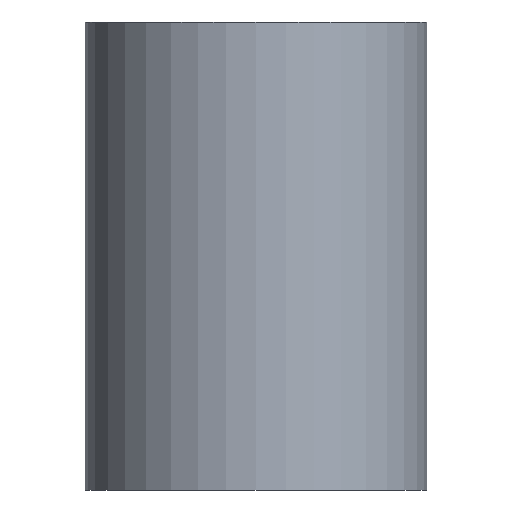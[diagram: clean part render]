
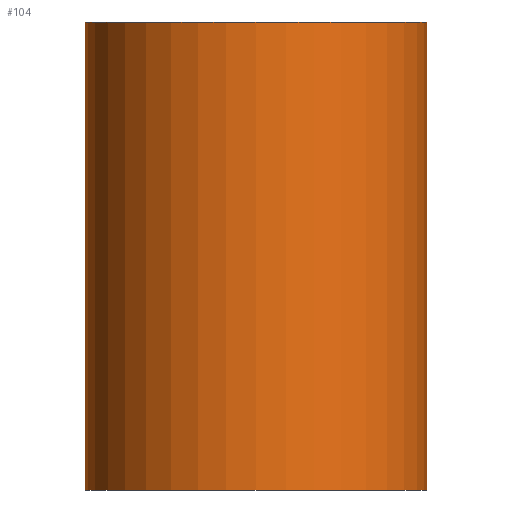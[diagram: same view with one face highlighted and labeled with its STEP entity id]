
A CAD part, front view. The second image highlights one B-rep face of the part: STEP entity #104.
In plain terms, the highlighted cylindrical face has radius 36.5 mm (diameter 73 mm), a partial arc.
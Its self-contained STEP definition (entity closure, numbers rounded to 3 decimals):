
#4 = EDGE_LOOP ( 'NONE', ( #62, #167, #174, #151 ) ) ;
#9 = VECTOR ( 'NONE', #52, 1000. ) ;
#23 = CIRCLE ( 'NONE', #85, 36.5 ) ;
#26 = CIRCLE ( 'NONE', #56, 36.5 ) ;
#31 = VERTEX_POINT ( 'NONE', #35 ) ;
#35 = CARTESIAN_POINT ( 'NONE',  ( 10918.5, -101.5, 2290. ) ) ;
#51 = CYLINDRICAL_SURFACE ( 'NONE', #103, 36.5 ) ;
#52 = DIRECTION ( 'NONE',  ( 0., 0., 1. ) ) ;
#55 = DIRECTION ( 'NONE',  ( 0., 0., -1. ) ) ;
#56 = AXIS2_PLACEMENT_3D ( 'NONE', #127, #55, #93 ) ;
#62 = ORIENTED_EDGE ( 'NONE', *, *, #95, .F. ) ;
#63 = DIRECTION ( 'NONE',  ( 0., 0., 1. ) ) ;
#84 = LINE ( 'NONE', #150, #195 ) ;
#85 = AXIS2_PLACEMENT_3D ( 'NONE', #138, #208, #125 ) ;
#87 = VERTEX_POINT ( 'NONE', #88 ) ;
#88 = CARTESIAN_POINT ( 'NONE',  ( 10991.5, -101.5, 2390. ) ) ;
#93 = DIRECTION ( 'NONE',  ( -1., 0., 0. ) ) ;
#95 = EDGE_CURVE ( 'NONE', #31, #191, #84, .T. ) ;
#103 = AXIS2_PLACEMENT_3D ( 'NONE', #134, #140, #137 ) ;
#104 = ADVANCED_FACE ( 'NONE', ( #153 ), #51, .T. ) ;
#125 = DIRECTION ( 'NONE',  ( -1., 0., 0. ) ) ;
#127 = CARTESIAN_POINT ( 'NONE',  ( 10955., -101.5, 2390. ) ) ;
#134 = CARTESIAN_POINT ( 'NONE',  ( 10955., -101.5, 2290. ) ) ;
#137 = DIRECTION ( 'NONE',  ( 1., 0., 0. ) ) ;
#138 = CARTESIAN_POINT ( 'NONE',  ( 10955., -101.5, 2290. ) ) ;
#140 = DIRECTION ( 'NONE',  ( 0., 0., 1. ) ) ;
#143 = EDGE_CURVE ( 'NONE', #183, #87, #154, .T. ) ;
#144 = CARTESIAN_POINT ( 'NONE',  ( 10918.5, -101.5, 2390. ) ) ;
#147 = EDGE_CURVE ( 'NONE', #183, #31, #23, .T. ) ;
#150 = CARTESIAN_POINT ( 'NONE',  ( 10918.5, -101.5, 2290. ) ) ;
#151 = ORIENTED_EDGE ( 'NONE', *, *, #164, .T. ) ;
#153 = FACE_OUTER_BOUND ( 'NONE', #4, .T. ) ;
#154 = LINE ( 'NONE', #206, #9 ) ;
#157 = CARTESIAN_POINT ( 'NONE',  ( 10991.5, -101.5, 2290. ) ) ;
#164 = EDGE_CURVE ( 'NONE', #87, #191, #26, .T. ) ;
#167 = ORIENTED_EDGE ( 'NONE', *, *, #147, .F. ) ;
#174 = ORIENTED_EDGE ( 'NONE', *, *, #143, .T. ) ;
#183 = VERTEX_POINT ( 'NONE', #157 ) ;
#191 = VERTEX_POINT ( 'NONE', #144 ) ;
#195 = VECTOR ( 'NONE', #63, 1000. ) ;
#206 = CARTESIAN_POINT ( 'NONE',  ( 10991.5, -101.5, 2290. ) ) ;
#208 = DIRECTION ( 'NONE',  ( 0., 0., -1. ) ) ;
